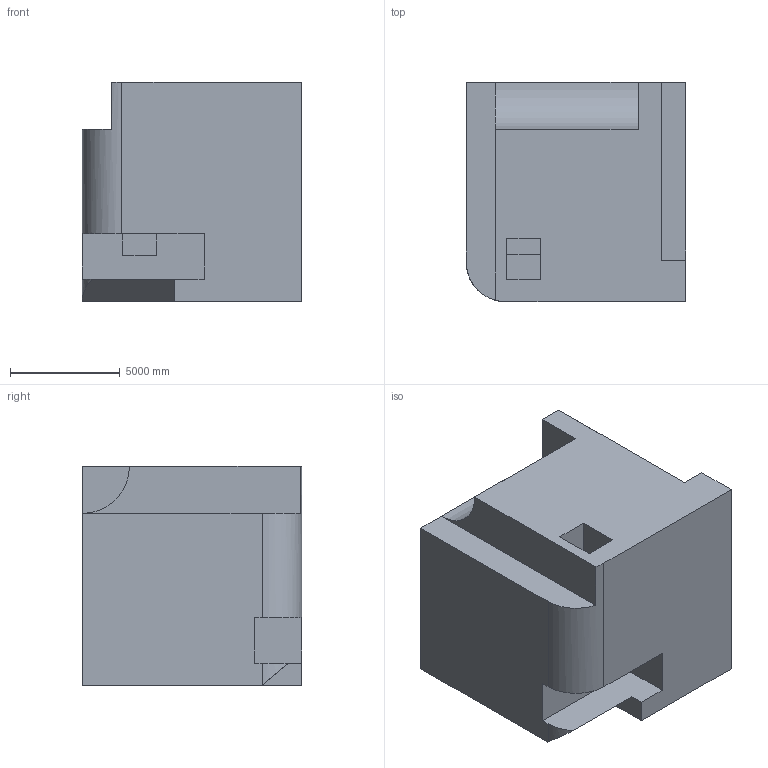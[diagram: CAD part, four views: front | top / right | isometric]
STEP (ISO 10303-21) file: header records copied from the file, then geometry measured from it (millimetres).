
FILE_DESCRIPTION (( 'STEP AP203' ), '1' );
FILE_NAME ('352.STEP', '2022-09-07T13:06:31', ( 'user' ), ( '' ), 'SwSTEP 2.0', 'SolidWorks 2021', '' );
FILE_SCHEMA (( 'CONFIG_CONTROL_DESIGN' ));
Length unit declared in the file: centimetre
Products named in the file (1): 352
Bounding box: 10000 x 10000 x 10000 mm (x, y, z)
Volume: 881964298712.9 mm3; surface area: 652225681.2 mm2
Topology: 1 solids, 1 shells, 30 faces, 83 edges, 55 vertices
Faces by surface type: plane 27, cylinder 3
Entity records: 1026 total; most frequent: CARTESIAN_POINT 172, ORIENTED_EDGE 166, DIRECTION 150, EDGE_CURVE 83, LINE 76, VECTOR 76, VERTEX_POINT 55, AXIS2_PLACEMENT_3D 37
